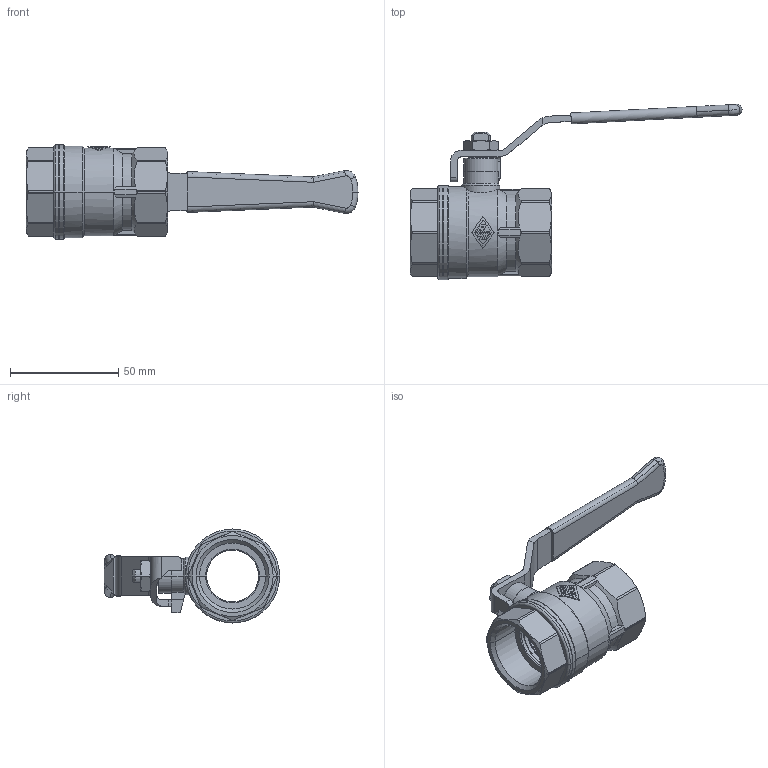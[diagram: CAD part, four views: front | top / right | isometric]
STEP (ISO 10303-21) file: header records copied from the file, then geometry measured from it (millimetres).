
FILE_DESCRIPTION(('CoCreate Modeling STEP Export'),'2;1');
FILE_NAME('1510060000.stp','2009-11-03T 9:27:27',(''),(''),'CoCreate Modeling STEP processor for AP214 (Solid Model)','CoCreate Modeling 16.00D 29-May-2009 (C) Parametric Technology GmbH','');
FILE_SCHEMA(('AUTOMOTIVE_DESIGN { 1 0 10303 214 1 1 1 1 }'));
Length unit declared in the file: millimetre
Products named in the file (2): 1500060000
Assembly tree (1 placements, depth 2):
  1500060000
    1500060000
Bounding box: 153.58 x 81.06 x 43.5 mm (x, y, z)
Volume: 57918.9 mm3; surface area: 26248.9 mm2
Topology: 1 solids, 3 shells, 447 faces, 1181 edges, 757 vertices
Faces by surface type: plane 191, cylinder 158, cone 77, torus 17, bspline 4
Entity records: 20622 total; most frequent: CARTESIAN_POINT 9664, ORIENTED_EDGE 2358, DIRECTION 1614, EDGE_CURVE 1179, VERTEX_POINT 757, VECTOR 564, LINE 564, AXIS2_PLACEMENT_3D 525
